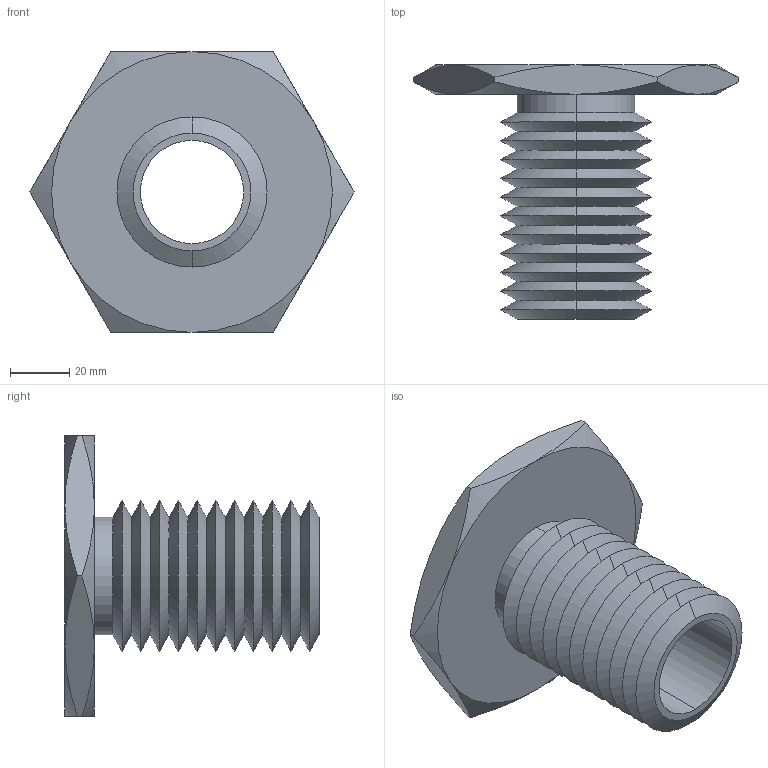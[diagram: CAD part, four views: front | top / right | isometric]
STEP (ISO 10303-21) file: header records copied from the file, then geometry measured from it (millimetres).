
FILE_DESCRIPTION (( 'STEP AP203' ), '1' );
FILE_NAME ('63302.W5200_1,37 UNC-6.step', '2013-12-08T11:51:16', ( 'User' ), ( '' ), 'SwSTEP 2.0', 'SolidWorks 2009', '' );
FILE_SCHEMA (( 'CONFIG_CONTROL_DESIGN' ));
Length unit declared in the file: millimetre
Products named in the file (1): 63302.W5200_1,37 UNC-6
Bounding box: 109.7 x 86 x 95 mm (x, y, z)
Volume: 113562.6 mm3; surface area: 46114.1 mm2
Topology: 1 solids, 1 shells, 71 faces, 146 edges, 78 vertices
Faces by surface type: cone 58, plane 9, cylinder 4
Entity records: 2071 total; most frequent: CARTESIAN_POINT 512, DIRECTION 332, ORIENTED_EDGE 292, EDGE_CURVE 146, AXIS2_PLACEMENT_3D 138, VERTEX_POINT 78, EDGE_LOOP 74, ADVANCED_FACE 71
